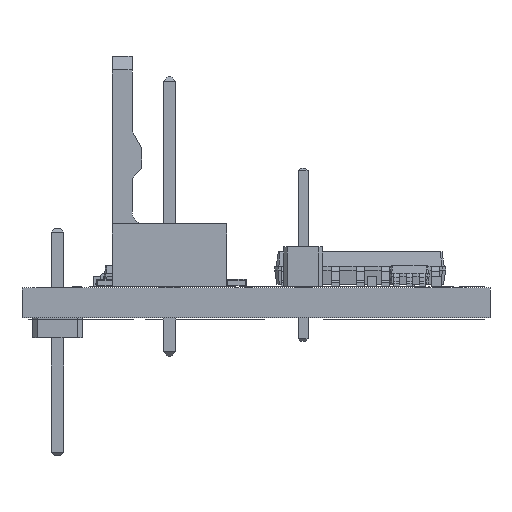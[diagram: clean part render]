
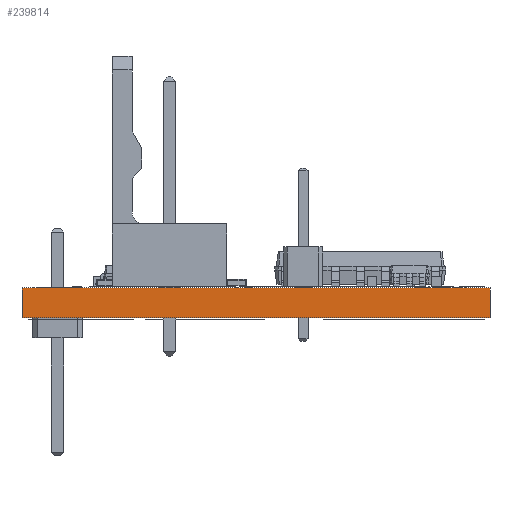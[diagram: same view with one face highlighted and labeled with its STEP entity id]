
A CAD part, front view. The second image highlights one B-rep face of the part: STEP entity #239814.
In plain terms, the highlighted planar face has unit normal (0, -1, 0).
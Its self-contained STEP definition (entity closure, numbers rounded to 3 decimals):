
#239814 = ADVANCED_FACE('',(#239815),#239829,.T.);
#239815 = FACE_BOUND('',#239816,.T.);
#239816 = EDGE_LOOP('',(#239817,#239852,#239880,#239908));
#239817 = ORIENTED_EDGE('',*,*,#239818,.T.);
#239818 = EDGE_CURVE('',#239819,#239821,#239823,.T.);
#239819 = VERTEX_POINT('',#239820);
#239820 = CARTESIAN_POINT('',(23.8,-0.,0.));
#239821 = VERTEX_POINT('',#239822);
#239822 = CARTESIAN_POINT('',(23.8,0.,1.51));
#239823 = SURFACE_CURVE('',#239824,(#239828,#239840),.PCURVE_S1.);
#239824 = LINE('',#239825,#239826);
#239825 = CARTESIAN_POINT('',(23.8,-0.,0.));
#239826 = VECTOR('',#239827,1.);
#239827 = DIRECTION('',(0.,0.,1.));
#239828 = PCURVE('',#239829,#239834);
#239829 = PLANE('',#239830);
#239830 = AXIS2_PLACEMENT_3D('',#239831,#239832,#239833);
#239831 = CARTESIAN_POINT('',(23.8,0.,0.));
#239832 = DIRECTION('',(0.,-1.,0.));
#239833 = DIRECTION('',(-1.,0.,0.));
#239834 = DEFINITIONAL_REPRESENTATION('',(#239835),#239839);
#239835 = LINE('',#239836,#239837);
#239836 = CARTESIAN_POINT('',(0.,0.));
#239837 = VECTOR('',#239838,1.);
#239838 = DIRECTION('',(0.,-1.));
#239839 = ( GEOMETRIC_REPRESENTATION_CONTEXT(2) 
PARAMETRIC_REPRESENTATION_CONTEXT() REPRESENTATION_CONTEXT('2D SPACE',''
  ) );
#239840 = PCURVE('',#239841,#239846);
#239841 = PLANE('',#239842);
#239842 = AXIS2_PLACEMENT_3D('',#239843,#239844,#239845);
#239843 = CARTESIAN_POINT('',(23.8,41.3,0.));
#239844 = DIRECTION('',(1.,0.,-0.));
#239845 = DIRECTION('',(0.,-1.,0.));
#239846 = DEFINITIONAL_REPRESENTATION('',(#239847),#239851);
#239847 = LINE('',#239848,#239849);
#239848 = CARTESIAN_POINT('',(41.3,0.));
#239849 = VECTOR('',#239850,1.);
#239850 = DIRECTION('',(0.,-1.));
#239851 = ( GEOMETRIC_REPRESENTATION_CONTEXT(2) 
PARAMETRIC_REPRESENTATION_CONTEXT() REPRESENTATION_CONTEXT('2D SPACE',''
  ) );
#239852 = ORIENTED_EDGE('',*,*,#239853,.T.);
#239853 = EDGE_CURVE('',#239821,#239854,#239856,.T.);
#239854 = VERTEX_POINT('',#239855);
#239855 = CARTESIAN_POINT('',(0.,0.,1.51));
#239856 = SURFACE_CURVE('',#239857,(#239861,#239868),.PCURVE_S1.);
#239857 = LINE('',#239858,#239859);
#239858 = CARTESIAN_POINT('',(23.8,0.,1.51));
#239859 = VECTOR('',#239860,1.);
#239860 = DIRECTION('',(-1.,0.,0.));
#239861 = PCURVE('',#239829,#239862);
#239862 = DEFINITIONAL_REPRESENTATION('',(#239863),#239867);
#239863 = LINE('',#239864,#239865);
#239864 = CARTESIAN_POINT('',(0.,-1.51));
#239865 = VECTOR('',#239866,1.);
#239866 = DIRECTION('',(1.,0.));
#239867 = ( GEOMETRIC_REPRESENTATION_CONTEXT(2) 
PARAMETRIC_REPRESENTATION_CONTEXT() REPRESENTATION_CONTEXT('2D SPACE',''
  ) );
#239868 = PCURVE('',#239869,#239874);
#239869 = PLANE('',#239870);
#239870 = AXIS2_PLACEMENT_3D('',#239871,#239872,#239873);
#239871 = CARTESIAN_POINT('',(0.,0.,1.51));
#239872 = DIRECTION('',(0.,0.,1.));
#239873 = DIRECTION('',(1.,0.,-0.));
#239874 = DEFINITIONAL_REPRESENTATION('',(#239875),#239879);
#239875 = LINE('',#239876,#239877);
#239876 = CARTESIAN_POINT('',(23.8,0.));
#239877 = VECTOR('',#239878,1.);
#239878 = DIRECTION('',(-1.,0.));
#239879 = ( GEOMETRIC_REPRESENTATION_CONTEXT(2) 
PARAMETRIC_REPRESENTATION_CONTEXT() REPRESENTATION_CONTEXT('2D SPACE',''
  ) );
#239880 = ORIENTED_EDGE('',*,*,#239881,.F.);
#239881 = EDGE_CURVE('',#239882,#239854,#239884,.T.);
#239882 = VERTEX_POINT('',#239883);
#239883 = CARTESIAN_POINT('',(0.,-0.,0.));
#239884 = SURFACE_CURVE('',#239885,(#239889,#239896),.PCURVE_S1.);
#239885 = LINE('',#239886,#239887);
#239886 = CARTESIAN_POINT('',(0.,-0.,0.));
#239887 = VECTOR('',#239888,1.);
#239888 = DIRECTION('',(0.,0.,1.));
#239889 = PCURVE('',#239829,#239890);
#239890 = DEFINITIONAL_REPRESENTATION('',(#239891),#239895);
#239891 = LINE('',#239892,#239893);
#239892 = CARTESIAN_POINT('',(23.8,0.));
#239893 = VECTOR('',#239894,1.);
#239894 = DIRECTION('',(0.,-1.));
#239895 = ( GEOMETRIC_REPRESENTATION_CONTEXT(2) 
PARAMETRIC_REPRESENTATION_CONTEXT() REPRESENTATION_CONTEXT('2D SPACE',''
  ) );
#239896 = PCURVE('',#239897,#239902);
#239897 = PLANE('',#239898);
#239898 = AXIS2_PLACEMENT_3D('',#239899,#239900,#239901);
#239899 = CARTESIAN_POINT('',(0.,0.,0.));
#239900 = DIRECTION('',(-1.,0.,0.));
#239901 = DIRECTION('',(0.,1.,0.));
#239902 = DEFINITIONAL_REPRESENTATION('',(#239903),#239907);
#239903 = LINE('',#239904,#239905);
#239904 = CARTESIAN_POINT('',(0.,0.));
#239905 = VECTOR('',#239906,1.);
#239906 = DIRECTION('',(0.,-1.));
#239907 = ( GEOMETRIC_REPRESENTATION_CONTEXT(2) 
PARAMETRIC_REPRESENTATION_CONTEXT() REPRESENTATION_CONTEXT('2D SPACE',''
  ) );
#239908 = ORIENTED_EDGE('',*,*,#239909,.F.);
#239909 = EDGE_CURVE('',#239819,#239882,#239910,.T.);
#239910 = SURFACE_CURVE('',#239911,(#239915,#239922),.PCURVE_S1.);
#239911 = LINE('',#239912,#239913);
#239912 = CARTESIAN_POINT('',(23.8,-0.,0.));
#239913 = VECTOR('',#239914,1.);
#239914 = DIRECTION('',(-1.,0.,0.));
#239915 = PCURVE('',#239829,#239916);
#239916 = DEFINITIONAL_REPRESENTATION('',(#239917),#239921);
#239917 = LINE('',#239918,#239919);
#239918 = CARTESIAN_POINT('',(0.,0.));
#239919 = VECTOR('',#239920,1.);
#239920 = DIRECTION('',(1.,0.));
#239921 = ( GEOMETRIC_REPRESENTATION_CONTEXT(2) 
PARAMETRIC_REPRESENTATION_CONTEXT() REPRESENTATION_CONTEXT('2D SPACE',''
  ) );
#239922 = PCURVE('',#239923,#239928);
#239923 = PLANE('',#239924);
#239924 = AXIS2_PLACEMENT_3D('',#239925,#239926,#239927);
#239925 = CARTESIAN_POINT('',(0.,0.,0.));
#239926 = DIRECTION('',(0.,0.,1.));
#239927 = DIRECTION('',(1.,0.,-0.));
#239928 = DEFINITIONAL_REPRESENTATION('',(#239929),#239933);
#239929 = LINE('',#239930,#239931);
#239930 = CARTESIAN_POINT('',(23.8,0.));
#239931 = VECTOR('',#239932,1.);
#239932 = DIRECTION('',(-1.,0.));
#239933 = ( GEOMETRIC_REPRESENTATION_CONTEXT(2) 
PARAMETRIC_REPRESENTATION_CONTEXT() REPRESENTATION_CONTEXT('2D SPACE',''
  ) );
